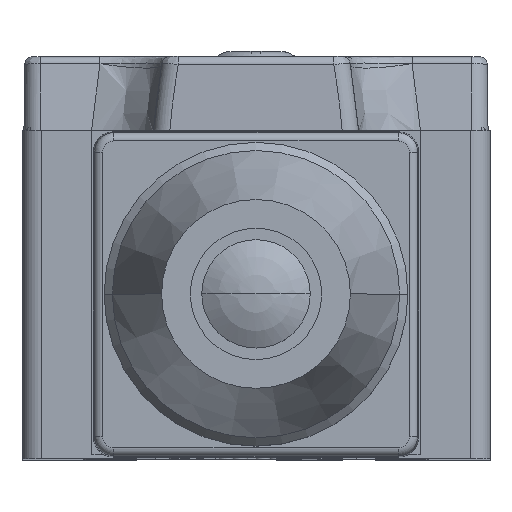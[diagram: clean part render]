
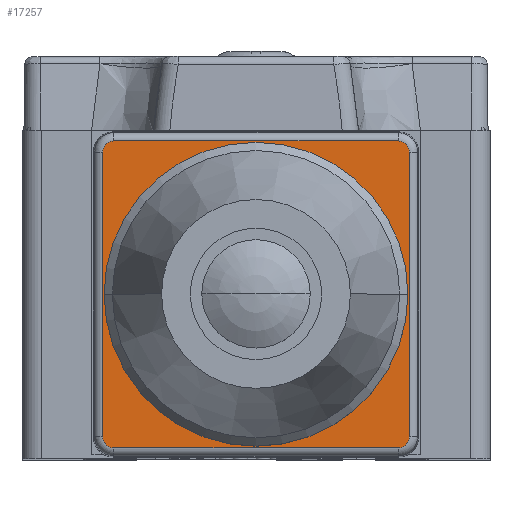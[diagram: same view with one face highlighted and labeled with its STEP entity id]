
A CAD part, top view. The second image highlights one B-rep face of the part: STEP entity #17257.
In plain terms, the highlighted planar face has unit normal (0, 0, 1).
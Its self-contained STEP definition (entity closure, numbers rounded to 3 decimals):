
#4527=DIRECTION('',(1.,0.,0.));
#4528=VECTOR('',#4527,17.295);
#4529=CARTESIAN_POINT('',(-8.648,0.652,
3.5));
#4530=LINE('',#4529,#4528);
#4535=CARTESIAN_POINT('',(-8.648,1.352,3.5));
#4536=DIRECTION('',(0.,0.,-1.));
#4537=DIRECTION('',(0.,-1.,0.));
#4538=AXIS2_PLACEMENT_3D('',#4535,#4536,#4537);
#4540=CARTESIAN_POINT('',(-8.648,18.648,3.5));
#4541=DIRECTION('',(0.,0.,-1.));
#4542=DIRECTION('',(-1.,0.,0.));
#4543=AXIS2_PLACEMENT_3D('',#4540,#4541,#4542);
#4545=CARTESIAN_POINT('',(8.648,18.648,3.5));
#4546=DIRECTION('',(0.,0.,-1.));
#4547=DIRECTION('',(0.,1.,0.));
#4548=AXIS2_PLACEMENT_3D('',#4545,#4546,#4547);
#4550=CARTESIAN_POINT('',(8.648,1.352,3.5));
#4551=DIRECTION('',(0.,0.,-1.));
#4552=DIRECTION('',(1.,0.,0.));
#4553=AXIS2_PLACEMENT_3D('',#4550,#4551,#4552);
#4570=DIRECTION('',(0.,-1.,0.));
#4571=VECTOR('',#4570,17.295);
#4572=CARTESIAN_POINT('',(-9.348,18.648,3.5));
#4573=LINE('',#4572,#4571);
#4593=DIRECTION('',(-1.,0.,0.));
#4594=VECTOR('',#4593,17.295);
#4595=CARTESIAN_POINT('',(8.648,19.348,3.5));
#4596=LINE('',#4595,#4594);
#4616=DIRECTION('',(0.,1.,0.));
#4617=VECTOR('',#4616,17.295);
#4618=CARTESIAN_POINT('',(9.348,1.352,3.5));
#4619=LINE('',#4618,#4617);
#4639=CARTESIAN_POINT('',(0.,10.,3.5));
#4640=DIRECTION('',(0.,0.,1.));
#4641=DIRECTION('',(-1.,0.,0.));
#4642=AXIS2_PLACEMENT_3D('',#4639,#4640,#4641);
#4644=CARTESIAN_POINT('',(0.,10.,3.5));
#4645=DIRECTION('',(0.,0.,1.));
#4646=DIRECTION('',(1.,0.,0.));
#4647=AXIS2_PLACEMENT_3D('',#4644,#4645,#4646);
#9822=CARTESIAN_POINT('',(-8.648,0.652,
3.5));
#9823=CARTESIAN_POINT('',(-9.348,1.352,3.5));
#9824=VERTEX_POINT('',#9822);
#9825=VERTEX_POINT('',#9823);
#9826=CARTESIAN_POINT('',(8.648,0.652,3.5));
#9827=VERTEX_POINT('',#9826);
#9828=CARTESIAN_POINT('',(9.348,1.352,3.5));
#9829=VERTEX_POINT('',#9828);
#9830=CARTESIAN_POINT('',(9.348,18.648,3.5));
#9831=VERTEX_POINT('',#9830);
#9832=CARTESIAN_POINT('',(8.648,19.348,3.5));
#9833=VERTEX_POINT('',#9832);
#9834=CARTESIAN_POINT('',(-8.648,19.348,3.5));
#9835=VERTEX_POINT('',#9834);
#9836=CARTESIAN_POINT('',(-9.348,18.648,3.5));
#9837=VERTEX_POINT('',#9836);
#11734=CARTESIAN_POINT('',(-9.25,10.,3.5));
#11735=CARTESIAN_POINT('',(9.25,10.,3.5));
#11736=VERTEX_POINT('',#11734);
#11737=VERTEX_POINT('',#11735);
#17229=CARTESIAN_POINT('',(0.,10.,3.5));
#17230=DIRECTION('',(0.,0.,1.));
#17231=DIRECTION('',(0.,1.,0.));
#17232=AXIS2_PLACEMENT_3D('',#17229,#17230,#17231);
#17233=PLANE('',#17232);
#17235=ORIENTED_EDGE('',*,*,#17234,.T.);
#17237=ORIENTED_EDGE('',*,*,#17236,.F.);
#17239=ORIENTED_EDGE('',*,*,#17238,.T.);
#17241=ORIENTED_EDGE('',*,*,#17240,.F.);
#17243=ORIENTED_EDGE('',*,*,#17242,.T.);
#17245=ORIENTED_EDGE('',*,*,#17244,.F.);
#17247=ORIENTED_EDGE('',*,*,#17246,.T.);
#17248=ORIENTED_EDGE('',*,*,#17219,.F.);
#17249=EDGE_LOOP('',(#17235,#17237,#17239,#17241,#17243,#17245,#17247,#17248));
#17250=FACE_OUTER_BOUND('',#17249,.F.);
#17252=ORIENTED_EDGE('',*,*,#17251,.T.);
#17254=ORIENTED_EDGE('',*,*,#17253,.T.);
#17255=EDGE_LOOP('',(#17252,#17254));
#17256=FACE_BOUND('',#17255,.F.);
#17257=ADVANCED_FACE('',(#17250,#17256),#17233,.T.);
#4539=CIRCLE('',#4538,0.7);
#4544=CIRCLE('',#4543,0.7);
#4549=CIRCLE('',#4548,0.7);
#4554=CIRCLE('',#4553,0.7);
#4643=CIRCLE('',#4642,9.25);
#4648=CIRCLE('',#4647,9.25);
#17219=EDGE_CURVE('',#9824,#9827,#4530,.T.);
#17234=EDGE_CURVE('',#9824,#9825,#4539,.T.);
#17236=EDGE_CURVE('',#9837,#9825,#4573,.T.);
#17238=EDGE_CURVE('',#9837,#9835,#4544,.T.);
#17240=EDGE_CURVE('',#9833,#9835,#4596,.T.);
#17242=EDGE_CURVE('',#9833,#9831,#4549,.T.);
#17244=EDGE_CURVE('',#9829,#9831,#4619,.T.);
#17246=EDGE_CURVE('',#9829,#9827,#4554,.T.);
#17251=EDGE_CURVE('',#11736,#11737,#4643,.T.);
#17253=EDGE_CURVE('',#11737,#11736,#4648,.T.);
